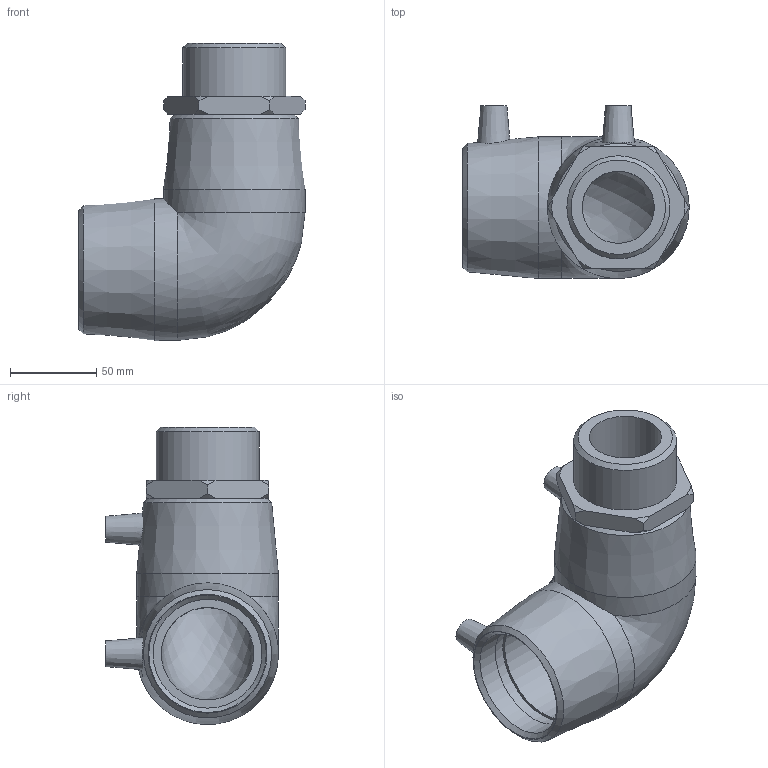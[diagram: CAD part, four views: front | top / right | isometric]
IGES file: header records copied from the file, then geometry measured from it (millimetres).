
Global section: file name: 492504063020.ipt; native system: Autodesk Inventor 2015; preprocessor: unknown; author: KIM; date: 20200202.122354; units: millimetre
Bounding box: 131 x 100 x 172 mm (x, y, z)
Volume: 511467.2 mm3; surface area: 97944.5 mm2
Topology: 1 solids, 2 shells, 59 faces, 143 edges, 96 vertices
Faces by surface type: plane 22, cone 19, revolution 10, cylinder 7, bspline 1
Full cylindrical faces by diameter (mm): 4 x2, 59.614 x1, 63 x2, 82 x2
